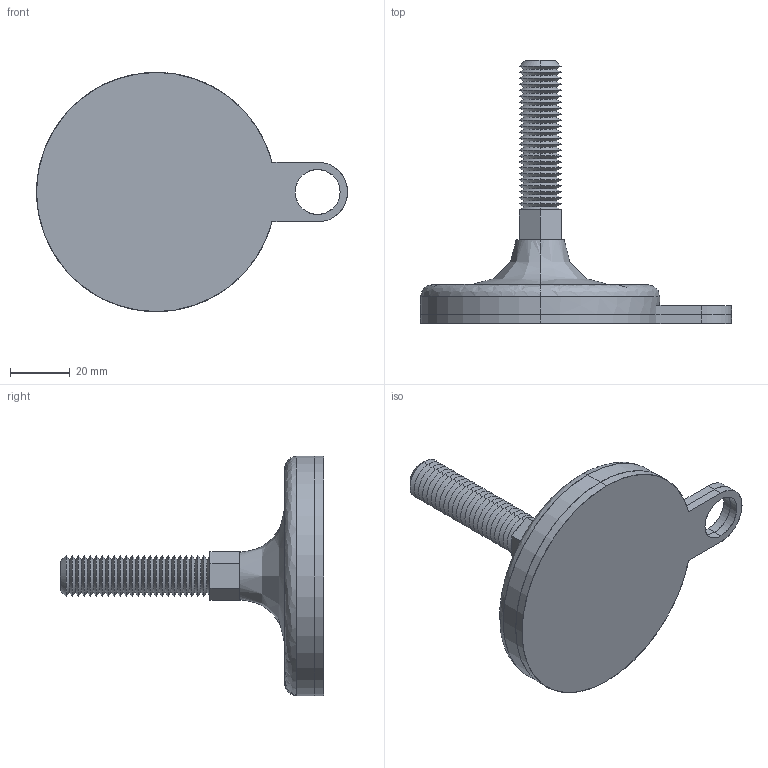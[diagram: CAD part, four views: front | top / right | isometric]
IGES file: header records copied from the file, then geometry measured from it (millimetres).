
Start section: SolidWorks IGES file using analytic representation for surfaces
Global section: file name: C:\Users\liam_\OneDrive\Documents\WORK\Work for WixRoyd\Job Files\J-00026 - Matt Davis CAD - 20191124\04. CAD Drawings\Wixroyd20191124\34704_v2\34704_v2_20191128_IGES\34704.W1400.igs; native system: SolidWorks 2017; preprocessor: SolidWorks 2017; author: liam_; date: 191128.202355; units: millimetre
Bounding box: 104 x 88 x 80 mm (x, y, z)
Surface area: 29289.9 mm2 (no closed solid volume)
Topology: 0 solids, 0 shells, 147 faces, 1222 edges, 1222 vertices
Faces by surface type: revolution 109, bspline 38
